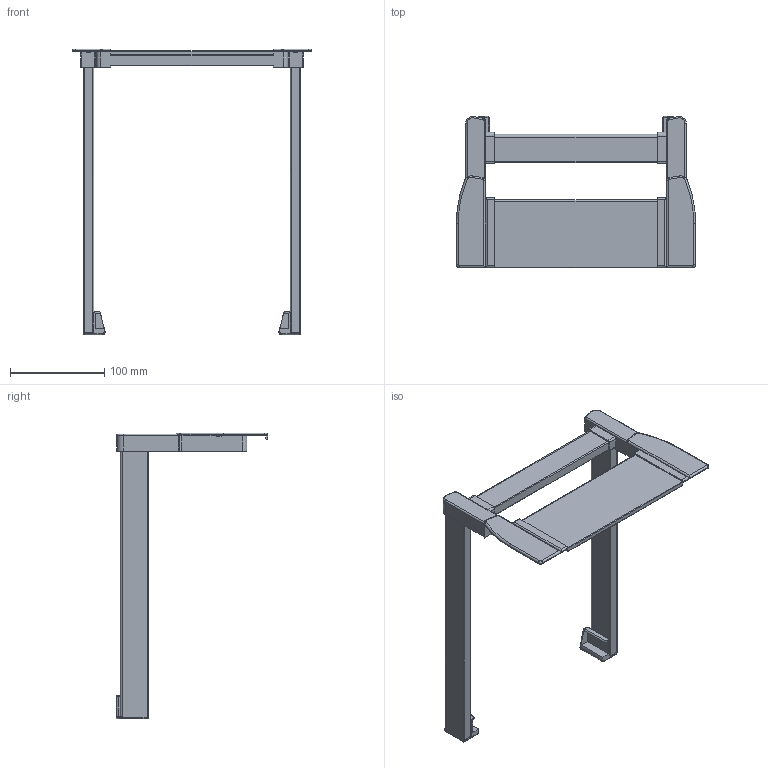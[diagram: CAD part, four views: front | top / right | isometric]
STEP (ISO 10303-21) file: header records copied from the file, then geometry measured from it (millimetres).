
FILE_DESCRIPTION (( 'STEP AP214' ), '1' );
FILE_NAME ('1_P620_NL 300_KAB 300_19er KS_.step', '2009-09-16T06:29:18', ( 'Waldinger Reinhard' ), ( 'Grass GmbH' ), 'SwSTEP 2.0', 'SolidWorks 2009', '' );
FILE_SCHEMA (( 'AUTOMOTIVE_DESIGN' ));
Length unit declared in the file: millimetre
Products named in the file (1): 1_P620_NL 300_KAB 300_19er KS_
Bounding box: 253.6 x 160.5 x 302.8 mm (x, y, z)
Volume: 502554.6 mm3; surface area: 124095.4 mm2
Topology: 1 solids, 1 shells, 218 faces, 576 edges, 364 vertices
Faces by surface type: plane 97, cylinder 89, torus 28, sphere 2, bspline 2
Entity records: 6974 total; most frequent: CARTESIAN_POINT 1341, DIRECTION 1192, ORIENTED_EDGE 1148, EDGE_CURVE 574, AXIS2_PLACEMENT_3D 431, VERTEX_POINT 364, VECTOR 330, LINE 330
